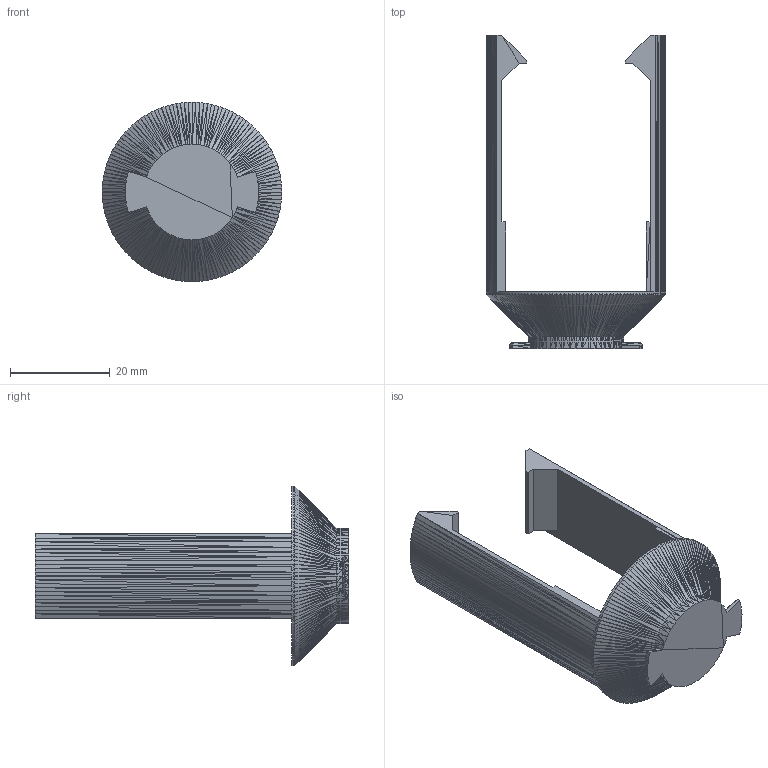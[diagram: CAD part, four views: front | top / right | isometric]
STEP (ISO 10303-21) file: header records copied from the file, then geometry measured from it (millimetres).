
FILE_DESCRIPTION(('Open CASCADE Model'),'2;1');
FILE_NAME('Open CASCADE Shape Model','2026-10-17T14:06:44',('Author'),( 'Open CASCADE'),'Open CASCADE STEP processor 8.0','build123d', 'Unknown');
FILE_SCHEMA(('AUTOMOTIVE_DESIGN { 1 0 10303 214 1 1 1 1 }'));
Length unit declared in the file: millimetre
Products named in the file (1): SOLID
Bounding box: 36 x 62.84 x 36 mm (x, y, z)
Volume: 10964 mm3; surface area: 6861.3 mm2
Topology: 1 solids, 3 shells, 957 faces, 1682 edges, 729 vertices
Faces by surface type: plane 957
Entity records: 41745 total; most frequent: CARTESIAN_POINT 7847, DIRECTION 5870, LINE 3956, VECTOR 3956, ORIENTED_EDGE 3370, PCURVE 3370, DEFINITIONAL_REPRESENTATION 3370, EDGE_CURVE 1687
